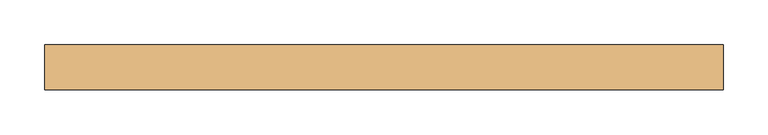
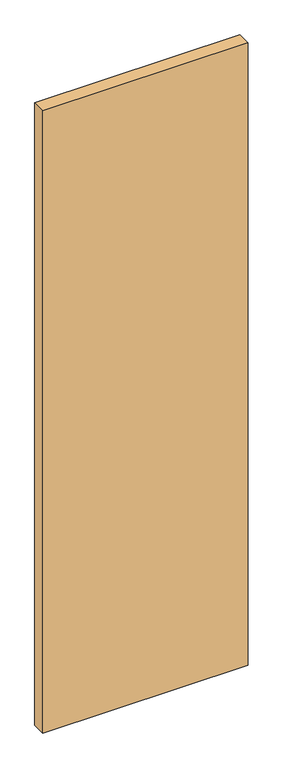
"""IFC4 building model written with IfcOpenShell, lengths in millimetres: door geometry, Planitar - Swap_Flush Panel : Planitar - Swap_Flush Panel."""

from ifc_helpers import new_model, si_unit, origin, origin_with_axes, place, context, project, spatial, polyline, outline, extrude, source, transform, mapped, element, save


def door_99daa36c(model_context):
    return source(origin(), model_context, "Body", "SweptSolid", [
        extrude(outline(polyline([(381.0, 25.4), (381.0, -25.4), (-381.0, -25.4), (-381.0, 25.4), (381.0, 25.4)])), origin_with_axes(), (0.0, 0.0, 1.0), 2438.4),
    ])


if __name__ == "__main__":
    model = new_model("IFC4")
    model_context = context("Model", 3, world=origin())
    ifc_project = project(units=[si_unit("LENGTHUNIT", "METRE", prefix="MILLI")], contexts=[model_context])
    site = spatial("IfcSite", under=ifc_project)
    building = spatial("IfcBuilding", under=site)
    placement = place(None, origin())
    door_shape = door_99daa36c(model_context)
    element("IfcDoor", 1, ObjectType="Planitar - Swap_Flush Panel : Planitar - Swap_Flush Panel", at=placement, inside=building, context=model_context, shape_type="MappedRepresentation", body=[
        mapped(door_shape, transform((0.0, 0.0, 0.0), x_axis=(1.0, 0.0, 0.0), y_axis=(0.0, 1.0, 0.0), z_axis=(0.0, 0.0, 1.0))),
    ])
    save(model, "model.ifc")
